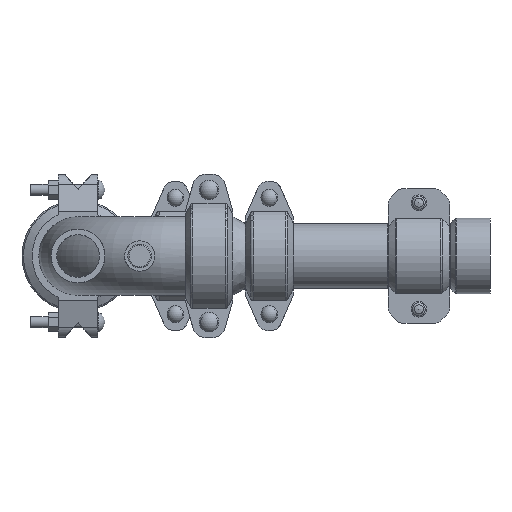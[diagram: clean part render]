
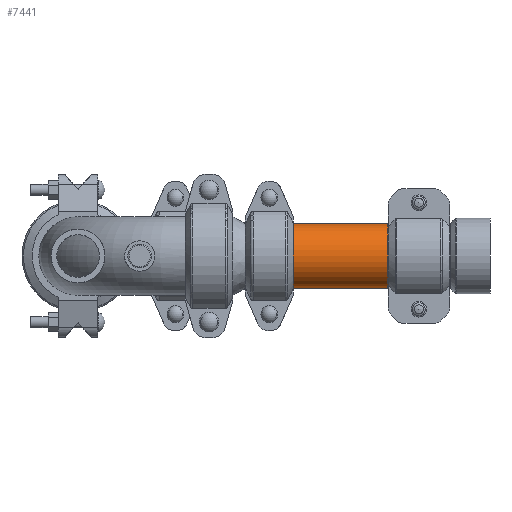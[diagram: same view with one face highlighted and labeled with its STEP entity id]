
A CAD part, front view. The second image highlights one B-rep face of the part: STEP entity #7441.
In plain terms, the highlighted cylindrical face has radius 36.513 mm (diameter 73.025 mm), a full revolution.
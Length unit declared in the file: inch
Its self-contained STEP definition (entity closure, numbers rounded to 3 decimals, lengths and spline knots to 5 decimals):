
#270=LINE('',#11407,#777);
#777=VECTOR('',#9058,1.4375);
#1284=CYLINDRICAL_SURFACE('',#8114,1.4375);
#1516=FACE_OUTER_BOUND('',#1913,.T.);
#1913=EDGE_LOOP('',(#4675,#4676,#4677,#4678,#4679,#4680));
#2401=CIRCLE('',#8112,1.4375);
#2402=CIRCLE('',#8113,1.4375);
#2403=CIRCLE('',#8115,1.4375);
#2404=CIRCLE('',#8116,1.4375);
#2852=VERTEX_POINT('',#11398);
#2853=VERTEX_POINT('',#11399);
#2854=VERTEX_POINT('',#11403);
#2855=VERTEX_POINT('',#11404);
#3589=EDGE_CURVE('',#2852,#2853,#2401,.T.);
#3590=EDGE_CURVE('',#2853,#2852,#2402,.T.);
#3591=EDGE_CURVE('',#2854,#2855,#2403,.T.);
#3592=EDGE_CURVE('',#2855,#2854,#2404,.T.);
#3593=EDGE_CURVE('',#2855,#2853,#270,.T.);
#4675=ORIENTED_EDGE('',*,*,#3591,.F.);
#4676=ORIENTED_EDGE('',*,*,#3592,.F.);
#4677=ORIENTED_EDGE('',*,*,#3593,.T.);
#4678=ORIENTED_EDGE('',*,*,#3590,.T.);
#4679=ORIENTED_EDGE('',*,*,#3589,.T.);
#4680=ORIENTED_EDGE('',*,*,#3593,.F.);
#7441=ADVANCED_FACE('',(#1516),#1284,.T.);
#8112=AXIS2_PLACEMENT_3D('',#11400,#9048,#9049);
#8113=AXIS2_PLACEMENT_3D('',#11401,#9050,#9051);
#8114=AXIS2_PLACEMENT_3D('',#11402,#9052,#9053);
#8115=AXIS2_PLACEMENT_3D('',#11405,#9054,#9055);
#8116=AXIS2_PLACEMENT_3D('',#11406,#9056,#9057);
#9048=DIRECTION('center_axis',(1.,0.,0.));
#9049=DIRECTION('ref_axis',(0.,0.,-1.));
#9050=DIRECTION('center_axis',(1.,0.,0.));
#9051=DIRECTION('ref_axis',(0.,0.,-1.));
#9052=DIRECTION('center_axis',(1.,0.,0.));
#9053=DIRECTION('ref_axis',(0.,1.,0.));
#9054=DIRECTION('center_axis',(1.,0.,0.));
#9055=DIRECTION('ref_axis',(0.,0.,-1.));
#9056=DIRECTION('center_axis',(1.,0.,0.));
#9057=DIRECTION('ref_axis',(0.,0.,-1.));
#9058=DIRECTION('',(-1.,0.,0.));
#11398=CARTESIAN_POINT('',(-2.1085,1.4375,0.));
#11399=CARTESIAN_POINT('',(-2.1085,-1.4375,0.));
#11400=CARTESIAN_POINT('Origin',(-2.1085,0.,0.));
#11401=CARTESIAN_POINT('Origin',(-2.1085,0.,0.));
#11402=CARTESIAN_POINT('Origin',(0.,0.,0.));
#11403=CARTESIAN_POINT('',(2.1085,1.4375,0.));
#11404=CARTESIAN_POINT('',(2.1085,-1.4375,0.));
#11405=CARTESIAN_POINT('Origin',(2.1085,0.,0.));
#11406=CARTESIAN_POINT('Origin',(2.1085,0.,0.));
#11407=CARTESIAN_POINT('',(0.,-1.4375,0.));
